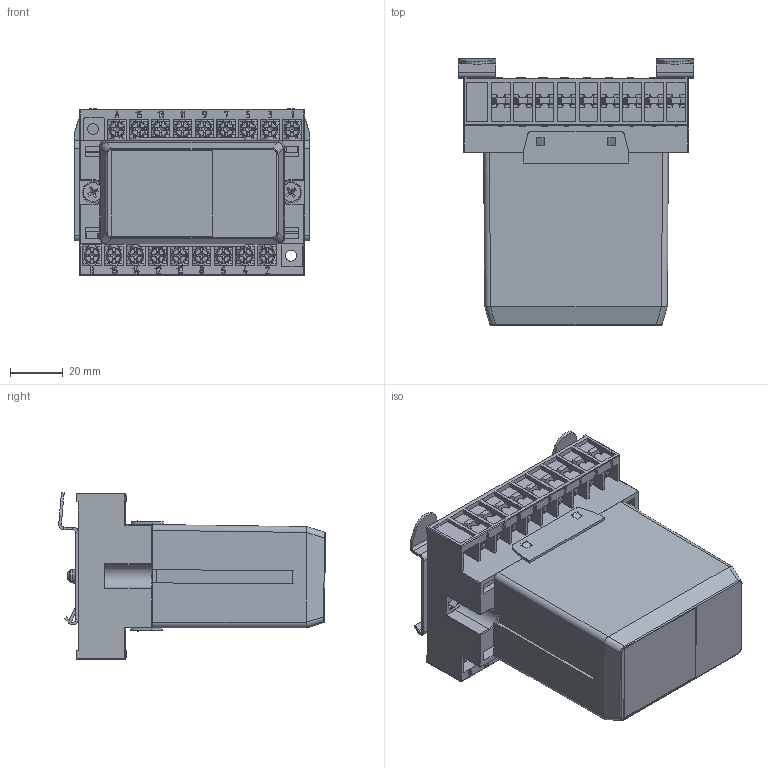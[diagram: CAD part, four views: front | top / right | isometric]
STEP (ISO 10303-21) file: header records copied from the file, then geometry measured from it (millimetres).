
FILE_DESCRIPTION(('STEP AP214'), '1');
FILE_NAME('ÐÝÏ36, ÐÝÏ38Ä íà DIN-ðåéêó ñ ïîâîðîòîì 90 (3D çàêàç÷èêàì)', '', ('UNSPECIFIED'), ('UNSPECIFIED'), 'ASCON STEP Converter 1.6', 'ASCON Math Kernel', '');
FILE_SCHEMA(('AUTOMOTIVE_DESIGN { 1 0 10303 214 3 1 1}'));
Length unit declared in the file: millimetre
Bounding box: 89.2 x 101.01 x 63.2 mm (x, y, z)
Volume: 65339.1 mm3; surface area: 85846.9 mm2
Topology: 2 solids, 2 shells, 6925 faces, 20096 edges, 13189 vertices
Faces by surface type: plane 3543, cylinder 2784, bspline 276, extrusion 144, cone 112, torus 58, sphere 8
Full cylindrical faces by diameter (mm): 2.45 x36, 3 x18, 3.5 x18, 4 x2, 4.2 x2, 4.4 x2, 4.5 x2, 5 x2, 8 x2, 9 x2
Entity records: 325706 total; most frequent: CARTESIAN_POINT 89729, ORIENTED_EDGE 39884, DIRECTION 35634, EDGE_CURVE 19942, VERTEX_POINT 13189, VECTOR 12262, LINE 12118, AXIS2_PLACEMENT_3D 11686
